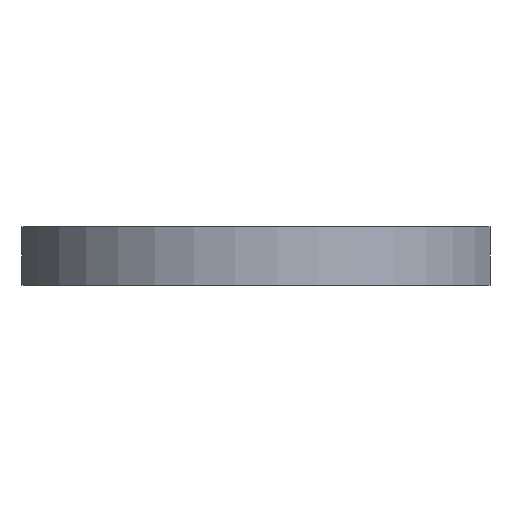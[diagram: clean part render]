
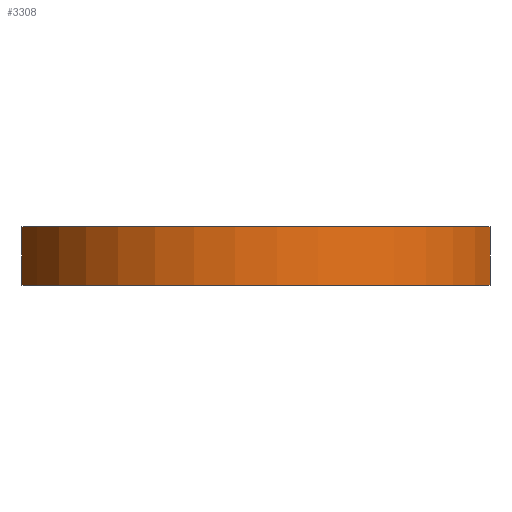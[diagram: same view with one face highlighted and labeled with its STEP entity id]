
A CAD part, left-side view. The second image highlights one B-rep face of the part: STEP entity #3308.
In plain terms, the highlighted cylindrical face has radius 62.5 mm (diameter 125 mm), a partial arc.
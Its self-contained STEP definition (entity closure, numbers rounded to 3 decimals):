
#114 = VERTEX_POINT ( 'NONE', #612 ) ;
#115 = EDGE_CURVE ( 'NONE', #1999, #114, #619, .T. ) ;
#242 = VERTEX_POINT ( 'NONE', #748 ) ;
#275 = VERTEX_POINT ( 'NONE', #809 ) ;
#303 = EDGE_CURVE ( 'NONE', #242, #275, #899, .T. ) ;
#608 = DIRECTION ( 'NONE',  ( 1., 0., 0. ) ) ;
#609 = DIRECTION ( 'NONE',  ( 0., 0., 1. ) ) ;
#610 = AXIS2_PLACEMENT_3D ( 'NONE', #618, #609, #608 ) ;
#612 = CARTESIAN_POINT ( 'NONE',  ( -17.5, -60., 7.5 ) ) ;
#618 = CARTESIAN_POINT ( 'NONE',  ( 0., 0., 7.5 ) ) ;
#619 = CIRCLE ( 'NONE', #610, 62.5 ) ;
#748 = CARTESIAN_POINT ( 'NONE',  ( -17.5, 60., -7.5 ) ) ;
#809 = CARTESIAN_POINT ( 'NONE',  ( -17.5, -60., -7.5 ) ) ;
#878 = DIRECTION ( 'NONE',  ( 1., 0., 0. ) ) ;
#879 = DIRECTION ( 'NONE',  ( 0., 0., 1. ) ) ;
#880 = CARTESIAN_POINT ( 'NONE',  ( 0., 0., -7.5 ) ) ;
#881 = AXIS2_PLACEMENT_3D ( 'NONE', #880, #879, #878 ) ;
#899 = CIRCLE ( 'NONE', #881, 62.5 ) ;
#1826 = ORIENTED_EDGE ( 'NONE', *, *, #115, .F. ) ;
#1999 = VERTEX_POINT ( 'NONE', #2200 ) ;
#2200 = CARTESIAN_POINT ( 'NONE',  ( -17.5, 60., 7.5 ) ) ;
#2753 = CYLINDRICAL_SURFACE ( 'NONE', #2780, 62.5 ) ;
#2755 = CARTESIAN_POINT ( 'NONE',  ( -17.5, -60., -7.5 ) ) ;
#2757 = DIRECTION ( 'NONE',  ( 1., 0., 0. ) ) ;
#2767 = CARTESIAN_POINT ( 'NONE',  ( 0., 0., -7.5 ) ) ;
#2769 = DIRECTION ( 'NONE',  ( 0., 0., 1. ) ) ;
#2773 = FACE_OUTER_BOUND ( 'NONE', #3317, .T. ) ;
#2780 = AXIS2_PLACEMENT_3D ( 'NONE', #2767, #2769, #2757 ) ;
#2791 = DIRECTION ( 'NONE',  ( 0., 0., 1. ) ) ;
#2792 = VECTOR ( 'NONE', #2791, 1000. ) ;
#2793 = LINE ( 'NONE', #2801, #2792 ) ;
#2801 = CARTESIAN_POINT ( 'NONE',  ( -17.5, 60., -7.5 ) ) ;
#2802 = DIRECTION ( 'NONE',  ( 0., 0., 1. ) ) ;
#2803 = VECTOR ( 'NONE', #2802, 1000. ) ;
#2804 = LINE ( 'NONE', #2755, #2803 ) ;
#3308 = ADVANCED_FACE ( 'NONE', ( #2773 ), #2753, .T. ) ;
#3317 = EDGE_LOOP ( 'NONE', ( #1826, #3331, #3320, #3323 ) ) ;
#3320 = ORIENTED_EDGE ( 'NONE', *, *, #303, .T. ) ;
#3323 = ORIENTED_EDGE ( 'NONE', *, *, #3328, .T. ) ;
#3328 = EDGE_CURVE ( 'NONE', #275, #114, #2804, .T. ) ;
#3331 = ORIENTED_EDGE ( 'NONE', *, *, #3332, .F. ) ;
#3332 = EDGE_CURVE ( 'NONE', #242, #1999, #2793, .T. ) ;
